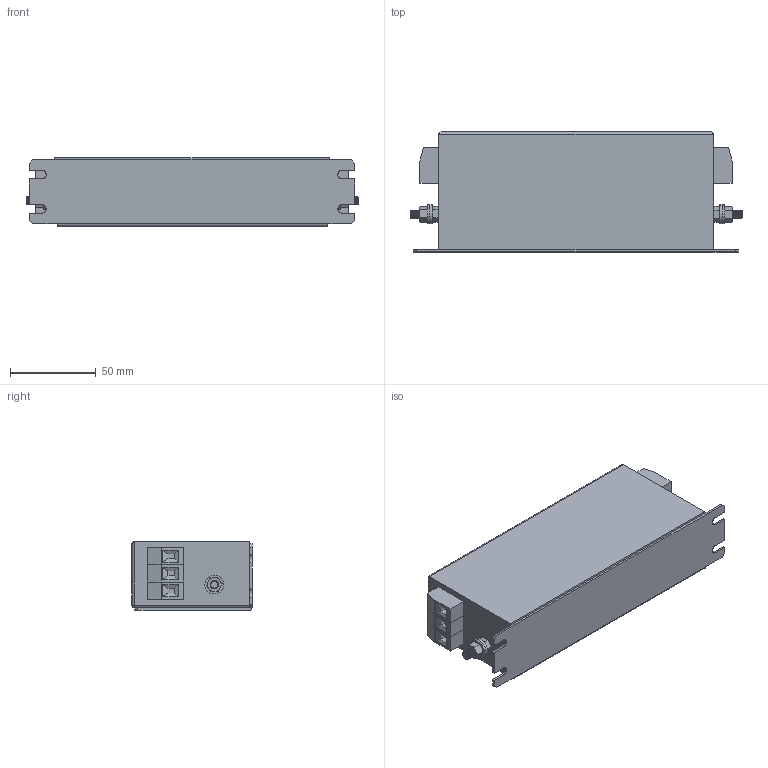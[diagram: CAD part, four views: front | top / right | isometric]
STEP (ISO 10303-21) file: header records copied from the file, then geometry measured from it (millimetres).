
FILE_DESCRIPTION (( 'STEP AP203' ), '1' );
FILE_NAME ('NF-K-7.STEP', '2013-10-23T10:26:07', ( 'Owner' ), ( 'EPA GmbH' ), 'SwSTEP 2.0', 'SolidWorks 2007', '' );
FILE_SCHEMA (( 'CONFIG_CONTROL_DESIGN' ));
Length unit declared in the file: millimetre
Products named in the file (8): Hex Screw_AM_B18.6.7M - M5 x 0.8 x 13 Plain HHMS --13S; Flat Washer Narrow_AM_B18.22M - Plain washer, 5 mm, narrow; NF-K-7; NK-K-7; VDFK4x3; VDFK-4; M5x13 Earth post; Hex Nut Style 1_AM_B18.2.4.1M - Hex nut, Style 1,  M5 x 0.8 --D-N
Assembly tree (12 placements, depth 3):
  NF-K-7
    M5x13 Earth post  x2
      Flat Washer Narrow_AM_B18.22M - Plain washer, 5 mm, narrow
      Hex Nut Style 1_AM_B18.2.4.1M - Hex nut, Style 1,  M5 x 0.8 --D-N
      Hex Screw_AM_B18.6.7M - M5 x 0.8 x 13 Plain HHMS --13S
    NK-K-7
    VDFK4x3  x2
      VDFK-4
Bounding box: 193.6 x 70 x 40 mm (x, y, z)
Volume: 435710 mm3; surface area: 67946.1 mm2
Topology: 15 solids, 15 shells, 591 faces, 1455 edges, 918 vertices
Faces by surface type: plane 276, cone 176, cylinder 137, sphere 2
Entity records: 8444 total; most frequent: CARTESIAN_POINT 1440, DIRECTION 1352, ORIENTED_EDGE 1228, EDGE_CURVE 614, AXIS2_PLACEMENT_3D 520, VERTEX_POINT 384, VECTOR 312, LINE 312
